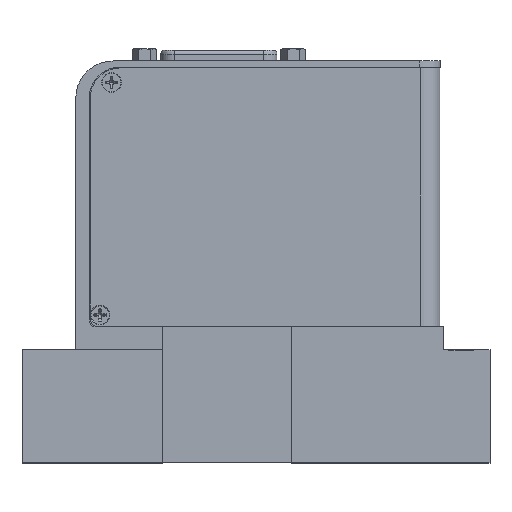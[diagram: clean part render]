
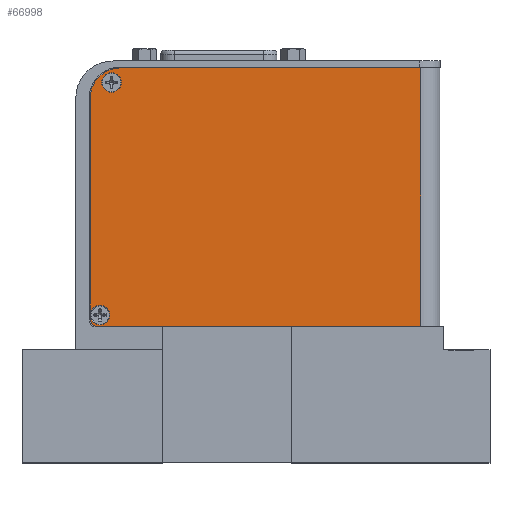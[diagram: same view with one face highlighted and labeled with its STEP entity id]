
A CAD part, top view. The second image highlights one B-rep face of the part: STEP entity #66998.
In plain terms, the highlighted planar face has unit normal (0, 0, 1).
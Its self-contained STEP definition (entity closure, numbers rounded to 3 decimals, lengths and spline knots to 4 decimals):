
#1357 = CIRCLE ( 'NONE', #32375, 0.086 ) ;
#1413 = FACE_BOUND ( 'NONE', #29717, .T. ) ;
#2106 = CIRCLE ( 'NONE', #53414, 0.086 ) ;
#3037 = EDGE_CURVE ( 'NONE', #66756, #56718, #34578, .T. ) ;
#3128 = ORIENTED_EDGE ( 'NONE', *, *, #62890, .F. ) ;
#4156 = DIRECTION ( 'NONE',  ( 0., 0., -1. ) ) ;
#4636 = CIRCLE ( 'NONE', #52817, 0.063 ) ;
#4965 = CARTESIAN_POINT ( 'NONE',  ( 3.6601, 4.7818, 3.0735 ) ) ;
#5057 = CARTESIAN_POINT ( 'NONE',  ( 3.8001, 4.7818, 3.0735 ) ) ;
#6920 = DIRECTION ( 'NONE',  ( 0., -1., 0. ) ) ;
#8566 = CARTESIAN_POINT ( 'NONE',  ( 1.0111, 4.7818, 3.0735 ) ) ;
#8636 = LINE ( 'NONE', #67730, #32652 ) ;
#9787 = CARTESIAN_POINT ( 'NONE',  ( 0.8041, 2.5638, 3.0735 ) ) ;
#10247 = CARTESIAN_POINT ( 'NONE',  ( 0.8291, 2.5988, 3.0735 ) ) ;
#10577 = DIRECTION ( 'NONE',  ( -1., 0., 0. ) ) ;
#12731 = LINE ( 'NONE', #5057, #36706 ) ;
#13112 = CARTESIAN_POINT ( 'NONE',  ( 0.9151, 2.5988, 3.0735 ) ) ;
#14145 = VERTEX_POINT ( 'NONE', #8566 ) ;
#14900 = CIRCLE ( 'NONE', #41871, 0.27 ) ;
#15012 = CARTESIAN_POINT ( 'NONE',  ( 0.8291, 2.5988, 3.0735 ) ) ;
#15208 = DIRECTION ( 'NONE',  ( 0., 0., -1. ) ) ;
#16494 = EDGE_CURVE ( 'NONE', #25951, #33808, #1357, .T. ) ;
#18128 = DIRECTION ( 'NONE',  ( 1., 0., 0. ) ) ;
#19110 = AXIS2_PLACEMENT_3D ( 'NONE', #48506, #68792, #64609 ) ;
#19930 = ORIENTED_EDGE ( 'NONE', *, *, #68926, .F. ) ;
#20078 = EDGE_CURVE ( 'NONE', #56718, #66756, #25401, .T. ) ;
#20830 = ORIENTED_EDGE ( 'NONE', *, *, #31346, .F. ) ;
#21121 = DIRECTION ( 'NONE',  ( 0., 0., -1. ) ) ;
#22553 = CARTESIAN_POINT ( 'NONE',  ( 0.7411, 2.5638, 3.0735 ) ) ;
#22986 = VERTEX_POINT ( 'NONE', #60247 ) ;
#24854 = EDGE_CURVE ( 'NONE', #33808, #25951, #2106, .T. ) ;
#25400 = FACE_BOUND ( 'NONE', #26513, .T. ) ;
#25401 = CIRCLE ( 'NONE', #19110, 0.086 ) ;
#25951 = VERTEX_POINT ( 'NONE', #61119 ) ;
#26513 = EDGE_LOOP ( 'NONE', ( #57027, #34531 ) ) ;
#26947 = DIRECTION ( 'NONE',  ( 1., 0., 0. ) ) ;
#29551 = DIRECTION ( 'NONE',  ( 0., 1., 0. ) ) ;
#29717 = EDGE_LOOP ( 'NONE', ( #71827, #39036 ) ) ;
#31346 = EDGE_CURVE ( 'NONE', #70546, #36927, #47810, .T. ) ;
#31383 = EDGE_LOOP ( 'NONE', ( #43671, #44167, #19930, #3128, #70852, #20830 ) ) ;
#31982 = CARTESIAN_POINT ( 'NONE',  ( 0.9311, 4.6528, 3.0735 ) ) ;
#32375 = AXIS2_PLACEMENT_3D ( 'NONE', #15012, #21121, #52086 ) ;
#32652 = VECTOR ( 'NONE', #18128, 39.3701 ) ;
#33808 = VERTEX_POINT ( 'NONE', #13112 ) ;
#34531 = ORIENTED_EDGE ( 'NONE', *, *, #16494, .T. ) ;
#34578 = CIRCLE ( 'NONE', #45156, 0.086 ) ;
#35693 = EDGE_CURVE ( 'NONE', #44900, #70546, #4636, .T. ) ;
#35846 = CARTESIAN_POINT ( 'NONE',  ( 1.0171, 4.6528, 3.0735 ) ) ;
#36706 = VECTOR ( 'NONE', #48672, 39.3701 ) ;
#36927 = VERTEX_POINT ( 'NONE', #55366 ) ;
#37577 = DIRECTION ( 'NONE',  ( 1., 0., 0. ) ) ;
#37598 = VERTEX_POINT ( 'NONE', #42076 ) ;
#38075 = DIRECTION ( 'NONE',  ( 0., 0., -1. ) ) ;
#39019 = LINE ( 'NONE', #62024, #61456 ) ;
#39036 = ORIENTED_EDGE ( 'NONE', *, *, #3037, .T. ) ;
#41854 = AXIS2_PLACEMENT_3D ( 'NONE', #4965, #44375, #10577 ) ;
#41871 = AXIS2_PLACEMENT_3D ( 'NONE', #60789, #38075, #43632 ) ;
#42076 = CARTESIAN_POINT ( 'NONE',  ( 3.6601, 4.7818, 3.0735 ) ) ;
#43632 = DIRECTION ( 'NONE',  ( -1., 0., 0. ) ) ;
#43671 = ORIENTED_EDGE ( 'NONE', *, *, #35693, .F. ) ;
#44167 = ORIENTED_EDGE ( 'NONE', *, *, #50813, .T. ) ;
#44375 = DIRECTION ( 'NONE',  ( 0., 0., -1. ) ) ;
#44900 = VERTEX_POINT ( 'NONE', #52576 ) ;
#45156 = AXIS2_PLACEMENT_3D ( 'NONE', #31982, #15208, #63819 ) ;
#47232 = VECTOR ( 'NONE', #29551, 39.3701 ) ;
#47810 = LINE ( 'NONE', #61434, #47232 ) ;
#48506 = CARTESIAN_POINT ( 'NONE',  ( 0.9311, 4.6528, 3.0735 ) ) ;
#48537 = FACE_OUTER_BOUND ( 'NONE', #31383, .T. ) ;
#48672 = DIRECTION ( 'NONE',  ( 1., 0., 0. ) ) ;
#49060 = PLANE ( 'NONE',  #41854 ) ;
#50813 = EDGE_CURVE ( 'NONE', #44900, #22986, #8636, .T. ) ;
#52086 = DIRECTION ( 'NONE',  ( 1., 0., 0. ) ) ;
#52576 = CARTESIAN_POINT ( 'NONE',  ( 0.8041, 2.5008, 3.0735 ) ) ;
#52817 = AXIS2_PLACEMENT_3D ( 'NONE', #9787, #66293, #37577 ) ;
#53414 = AXIS2_PLACEMENT_3D ( 'NONE', #10247, #4156, #26947 ) ;
#55366 = CARTESIAN_POINT ( 'NONE',  ( 0.7411, 4.5118, 3.0735 ) ) ;
#56718 = VERTEX_POINT ( 'NONE', #35846 ) ;
#57027 = ORIENTED_EDGE ( 'NONE', *, *, #24854, .T. ) ;
#60194 = EDGE_CURVE ( 'NONE', #36927, #14145, #14900, .T. ) ;
#60247 = CARTESIAN_POINT ( 'NONE',  ( 3.6601, 2.5008, 3.0735 ) ) ;
#60789 = CARTESIAN_POINT ( 'NONE',  ( 1.0111, 4.5118, 3.0735 ) ) ;
#61119 = CARTESIAN_POINT ( 'NONE',  ( 0.7431, 2.5988, 3.0735 ) ) ;
#61434 = CARTESIAN_POINT ( 'NONE',  ( 0.7411, 4.7818, 3.0735 ) ) ;
#61456 = VECTOR ( 'NONE', #6920, 39.3701 ) ;
#62024 = CARTESIAN_POINT ( 'NONE',  ( 3.6601, 4.7818, 3.0735 ) ) ;
#62890 = EDGE_CURVE ( 'NONE', #14145, #37598, #12731, .T. ) ;
#63246 = CARTESIAN_POINT ( 'NONE',  ( 0.8451, 4.6528, 3.0735 ) ) ;
#63819 = DIRECTION ( 'NONE',  ( 1., 0., 0. ) ) ;
#64609 = DIRECTION ( 'NONE',  ( 1., 0., 0. ) ) ;
#66293 = DIRECTION ( 'NONE',  ( 0., 0., -1. ) ) ;
#66756 = VERTEX_POINT ( 'NONE', #63246 ) ;
#66998 = ADVANCED_FACE ( 'NONE', ( #48537, #1413, #25400 ), #49060, .F. ) ;
#67730 = CARTESIAN_POINT ( 'NONE',  ( 3.6601, 2.5008, 3.0735 ) ) ;
#68792 = DIRECTION ( 'NONE',  ( 0., 0., -1. ) ) ;
#68926 = EDGE_CURVE ( 'NONE', #37598, #22986, #39019, .T. ) ;
#70546 = VERTEX_POINT ( 'NONE', #22553 ) ;
#70852 = ORIENTED_EDGE ( 'NONE', *, *, #60194, .F. ) ;
#71827 = ORIENTED_EDGE ( 'NONE', *, *, #20078, .T. ) ;
